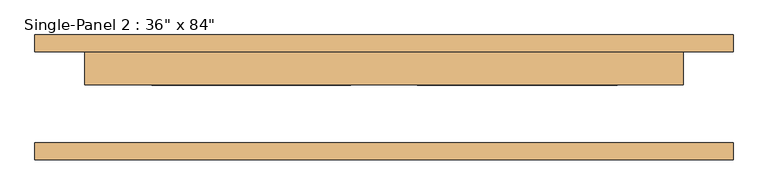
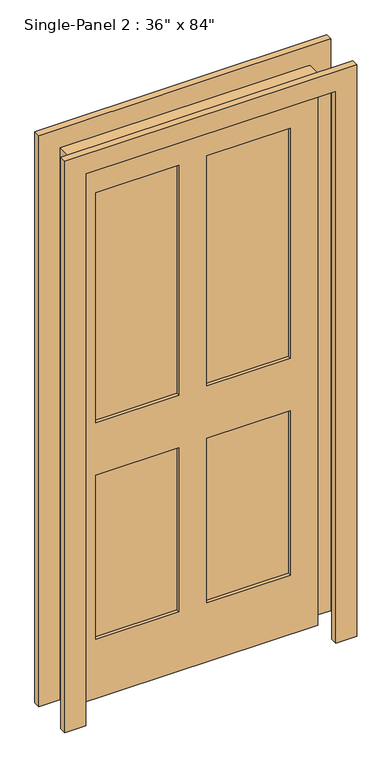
"""IFC4 building model written with IfcOpenShell, lengths in millimetres: door geometry."""

from ifc_helpers import new_model, si_unit, frame, origin, place, context, project, spatial, polyline, outline, extrude, source, transform, mapped, element, save


def door_0975cc44(model_context):
    return source(origin(), model_context, "Body", "SweptSolid", [
        extrude(outline(polyline([(-50.9240165, 31.75), (-355.0511799, 31.75), (-355.0511799, 57.15), (-50.9240165, 57.15), (-50.9240165, 31.75)])), frame((0.0, 0.0, 1068.1906173), z_axis=(0.0, 0.0, 1.0), x_axis=(1.0, 0.0, 0.0)), (0.0, 0.0, 1.0), 889.2046757),
        extrude(outline(polyline([(356.1488201, 31.75), (50.6759835, 31.75), (50.6759835, 57.15), (356.1488201, 57.15), (356.1488201, 31.75)])), frame((0.0, 0.0, 1068.1906173), z_axis=(0.0, 0.0, 1.0), x_axis=(1.0, 0.0, 0.0)), (0.0, 0.0, 1.0), 889.2046757),
        extrude(outline(polyline([(-50.9240165, 31.75), (-355.0511799, 31.75), (-355.0511799, 57.15), (-50.9240165, 57.15), (-50.9240165, 31.75)])), frame((0.0, 0.0, 230.195293), z_axis=(0.0, 0.0, 1.0), x_axis=(1.0, 0.0, 0.0)), (0.0, 0.0, 1.0), 635.0),
        extrude(outline(polyline([(356.1488201, 31.75), (50.6759835, 31.75), (50.6759835, 57.15), (356.1488201, 57.15), (356.1488201, 31.75)])), frame((0.0, 0.0, 230.195293), z_axis=(0.0, 0.0, 1.0), x_axis=(1.0, 0.0, 0.0)), (0.0, 0.0, 1.0), 634.7953243),
        extrude(outline(polyline([(2209.8, -533.4), (1.3906173, -533.4), (1.3906173, -457.3240165), (2134.9906173, -457.3240165), (2134.9906173, 457.0759835), (1.3906173, 457.0759835), (0.0, 533.4), (2209.8, 533.4), (2209.8, -533.4)])), frame((0.0, 69.85, 0.0), z_axis=(0.0, 1.0, 0.0), x_axis=(0.0, 0.0, 1.0)), (0.0, 0.0, 1.0), 25.4),
        extrude(outline(polyline([(2209.8, 533.4), (2209.8, -533.4), (1.3906173, -533.4), (1.3906173, -457.3240165), (2134.9906173, -457.3240165), (2134.9906173, 457.0759835), (1.3906173, 457.0759835), (0.0, 533.4), (2209.8, 533.4)])), frame((0.0, -95.25, 0.0), z_axis=(0.0, 1.0, 0.0), x_axis=(0.0, 0.0, 1.0)), (0.0, 0.0, 1.0), 25.4),
        extrude(outline(polyline([(2134.9906173, 457.0759835), (2134.9906173, -457.3240165), (1.3906173, -457.3240165), (1.3906173, 457.0759835), (2134.9906173, 457.0759835)]), holes=[polyline([(1957.395293, -50.9240165), (1068.1906173, -50.9240165), (1068.1906173, -355.0511799), (1957.395293, -355.0511799), (1957.395293, -50.9240165)]), polyline([(1957.395293, 356.1488201), (1068.1906173, 356.1488201), (1068.1906173, 50.6759835), (1957.395293, 50.6759835), (1957.395293, 356.1488201)]), polyline([(865.195293, -50.9240165), (230.195293, -50.9240165), (230.195293, -355.0511799), (865.195293, -355.0511799), (865.195293, -50.9240165)]), polyline([(864.9906173, 356.1488201), (230.195293, 356.1488201), (230.195293, 50.6759835), (864.9906173, 50.6759835), (864.9906173, 356.1488201)])]), frame((0.0, 19.05, 0.0), z_axis=(0.0, 1.0, 0.0), x_axis=(0.0, 0.0, 1.0)), (0.0, 0.0, 1.0), 50.8),
    ])


if __name__ == "__main__":
    model = new_model("IFC4")
    model_context = context("Model", 3, world=origin())
    ifc_project = project(units=[si_unit("LENGTHUNIT", "METRE", prefix="MILLI")], contexts=[model_context])
    site = spatial("IfcSite", under=ifc_project)
    building = spatial("IfcBuilding", under=site)
    placement = place(None, origin())
    door_shape = door_0975cc44(model_context)
    element("IfcDoor", 1, ObjectType="Single-Panel 2 : 36\" x 84\"", at=placement, inside=building, context=model_context, shape_type="MappedRepresentation", body=[
        mapped(door_shape, transform((0.0, 0.0, 0.0), x_axis=(1.0, 0.0, 0.0), y_axis=(0.0, 1.0, 0.0), z_axis=(0.0, 0.0, 1.0))),
    ])
    save(model, "model.ifc")
